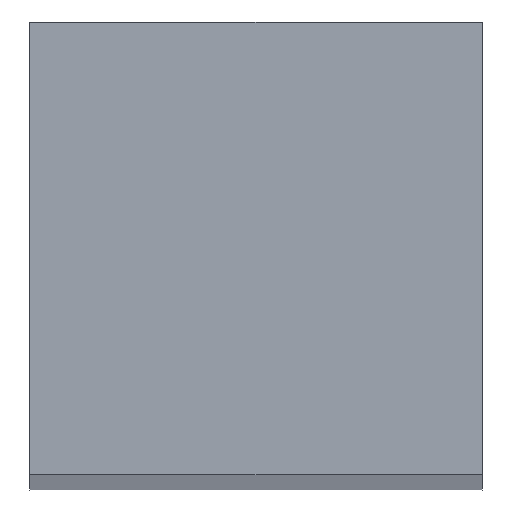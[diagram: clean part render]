
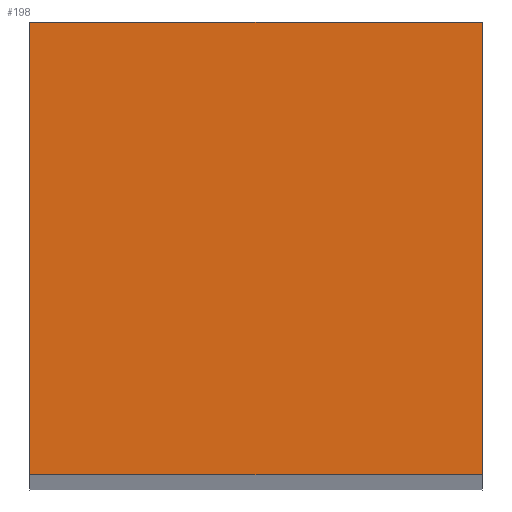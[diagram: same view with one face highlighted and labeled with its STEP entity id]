
A CAD part, top view. The second image highlights one B-rep face of the part: STEP entity #198.
In plain terms, the highlighted planar face has unit normal (0, 0, 1).
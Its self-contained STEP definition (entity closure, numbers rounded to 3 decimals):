
#111 = CARTESIAN_POINT ( 'NONE',  ( -10.125, 10.125, 410. ) ) ;
#117 = DIRECTION ( 'NONE',  ( -1., 0., 0. ) ) ;
#118 = DIRECTION ( 'NONE',  ( 0., 1., 0. ) ) ;
#125 = CARTESIAN_POINT ( 'NONE',  ( 10.125, -10.125, 410. ) ) ;
#126 = DIRECTION ( 'NONE',  ( 1., 0., 0. ) ) ;
#128 = CARTESIAN_POINT ( 'NONE',  ( -10.125, -10.125, 410. ) ) ;
#168 = LINE ( 'NONE', #125, #176 ) ;
#173 = VECTOR ( 'NONE', #126, 1000. ) ;
#175 = VECTOR ( 'NONE', #117, 1000. ) ;
#176 = VECTOR ( 'NONE', #118, 1000. ) ;
#181 = LINE ( 'NONE', #111, #175 ) ;
#198 = ADVANCED_FACE ( 'NONE', ( #705 ), #1176, .F. ) ;
#345 = VERTEX_POINT ( 'NONE', #1283 ) ;
#354 = VERTEX_POINT ( 'NONE', #1297 ) ;
#486 = EDGE_LOOP ( 'NONE', ( #684, #649, #656, #658 ) ) ;
#574 = LINE ( 'NONE', #590, #575 ) ;
#575 = VECTOR ( 'NONE', #591, 1000. ) ;
#590 = CARTESIAN_POINT ( 'NONE',  ( -10.125, -10.125, 410. ) ) ;
#591 = DIRECTION ( 'NONE',  ( 0., -1., 0. ) ) ;
#595 = CARTESIAN_POINT ( 'NONE',  ( -10.125, 10.125, 410. ) ) ;
#601 = CARTESIAN_POINT ( 'NONE',  ( -10.125, -10.125, 410. ) ) ;
#649 = ORIENTED_EDGE ( 'NONE', *, *, #760, .T. ) ;
#656 = ORIENTED_EDGE ( 'NONE', *, *, #761, .T. ) ;
#658 = ORIENTED_EDGE ( 'NONE', *, *, #764, .T. ) ;
#684 = ORIENTED_EDGE ( 'NONE', *, *, #924, .T. ) ;
#705 = FACE_OUTER_BOUND ( 'NONE', #486, .T. ) ;
#760 = EDGE_CURVE ( 'NONE', #941, #345, #972, .T. ) ;
#761 = EDGE_CURVE ( 'NONE', #345, #354, #168, .T. ) ;
#764 = EDGE_CURVE ( 'NONE', #354, #937, #181, .T. ) ;
#856 = AXIS2_PLACEMENT_3D ( 'NONE', #1173, #1164, #1161 ) ;
#924 = EDGE_CURVE ( 'NONE', #937, #941, #574, .T. ) ;
#937 = VERTEX_POINT ( 'NONE', #595 ) ;
#941 = VERTEX_POINT ( 'NONE', #601 ) ;
#972 = LINE ( 'NONE', #128, #173 ) ;
#1161 = DIRECTION ( 'NONE',  ( -1., 0., 0. ) ) ;
#1164 = DIRECTION ( 'NONE',  ( 0., 0., -1. ) ) ;
#1173 = CARTESIAN_POINT ( 'NONE',  ( -10.125, -10.125, 410. ) ) ;
#1176 = PLANE ( 'NONE',  #856 ) ;
#1283 = CARTESIAN_POINT ( 'NONE',  ( 10.125, -10.125, 410. ) ) ;
#1297 = CARTESIAN_POINT ( 'NONE',  ( 10.125, 10.125, 410. ) ) ;
